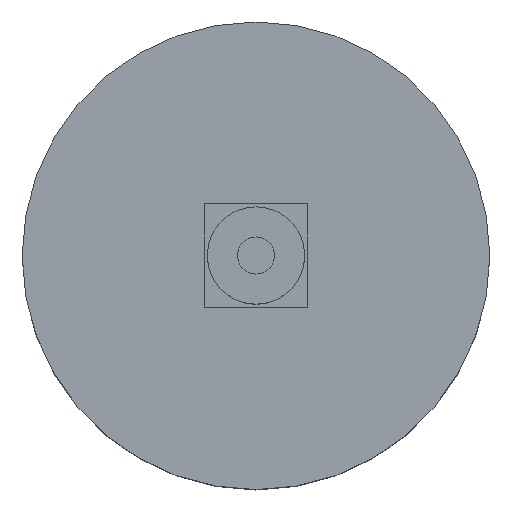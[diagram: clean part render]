
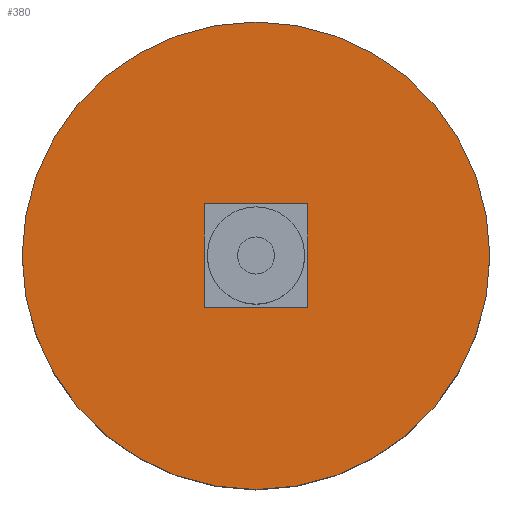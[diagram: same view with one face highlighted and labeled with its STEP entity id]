
A CAD part, top view. The second image highlights one B-rep face of the part: STEP entity #380.
In plain terms, the highlighted planar face has unit normal (0, 0, 1).
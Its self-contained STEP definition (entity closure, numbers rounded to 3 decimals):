
#12 = EDGE_CURVE ( 'NONE', #421, #18, #246, .T. ) ;
#18 = VERTEX_POINT ( 'NONE', #426 ) ;
#20 = DIRECTION ( 'NONE',  ( 1., 0., 0. ) ) ;
#22 = EDGE_CURVE ( 'NONE', #160, #137, #463, .T. ) ;
#26 = FACE_OUTER_BOUND ( 'NONE', #93, .T. ) ;
#31 = VECTOR ( 'NONE', #458, 1000. ) ;
#33 = ORIENTED_EDGE ( 'NONE', *, *, #60, .F. ) ;
#60 = EDGE_CURVE ( 'NONE', #286, #187, #420, .T. ) ;
#81 = ORIENTED_EDGE ( 'NONE', *, *, #391, .F. ) ;
#85 = CARTESIAN_POINT ( 'NONE',  ( -7., -7., 33.7 ) ) ;
#93 = EDGE_LOOP ( 'NONE', ( #113, #118 ) ) ;
#104 = DIRECTION ( 'NONE',  ( 1., 0., 0. ) ) ;
#113 = ORIENTED_EDGE ( 'NONE', *, *, #12, .T. ) ;
#118 = ORIENTED_EDGE ( 'NONE', *, *, #358, .T. ) ;
#136 = CARTESIAN_POINT ( 'NONE',  ( -31.5, 0., 33.7 ) ) ;
#137 = VERTEX_POINT ( 'NONE', #322 ) ;
#141 = VECTOR ( 'NONE', #363, 1000. ) ;
#160 = VERTEX_POINT ( 'NONE', #170 ) ;
#166 = CARTESIAN_POINT ( 'NONE',  ( 7., -7., 33.7 ) ) ;
#170 = CARTESIAN_POINT ( 'NONE',  ( 7., 7., 33.7 ) ) ;
#183 = CARTESIAN_POINT ( 'NONE',  ( -7., 7., 33.7 ) ) ;
#187 = VERTEX_POINT ( 'NONE', #166 ) ;
#209 = AXIS2_PLACEMENT_3D ( 'NONE', #408, #368, #104 ) ;
#212 = LINE ( 'NONE', #480, #141 ) ;
#225 = AXIS2_PLACEMENT_3D ( 'NONE', #254, #290, #20 ) ;
#231 = DIRECTION ( 'NONE',  ( 1., 0., 0. ) ) ;
#244 = ORIENTED_EDGE ( 'NONE', *, *, #362, .F. ) ;
#246 = CIRCLE ( 'NONE', #321, 31.5 ) ;
#247 = VECTOR ( 'NONE', #415, 1000. ) ;
#254 = CARTESIAN_POINT ( 'NONE',  ( 0., 0., 33.7 ) ) ;
#256 = LINE ( 'NONE', #183, #247 ) ;
#267 = DIRECTION ( 'NONE',  ( -1., 0., 0. ) ) ;
#272 = EDGE_LOOP ( 'NONE', ( #244, #33, #81, #289 ) ) ;
#282 = CARTESIAN_POINT ( 'NONE',  ( -7., -7., 33.7 ) ) ;
#286 = VERTEX_POINT ( 'NONE', #282 ) ;
#289 = ORIENTED_EDGE ( 'NONE', *, *, #22, .F. ) ;
#290 = DIRECTION ( 'NONE',  ( 0., 0., 1. ) ) ;
#293 = CIRCLE ( 'NONE', #225, 31.5 ) ;
#301 = DIRECTION ( 'NONE',  ( 0., 0., 1. ) ) ;
#315 = CARTESIAN_POINT ( 'NONE',  ( 0., 0., 33.7 ) ) ;
#321 = AXIS2_PLACEMENT_3D ( 'NONE', #315, #301, #231 ) ;
#322 = CARTESIAN_POINT ( 'NONE',  ( -7., 7., 33.7 ) ) ;
#353 = VECTOR ( 'NONE', #267, 1000. ) ;
#358 = EDGE_CURVE ( 'NONE', #18, #421, #293, .T. ) ;
#362 = EDGE_CURVE ( 'NONE', #187, #160, #212, .T. ) ;
#363 = DIRECTION ( 'NONE',  ( 0., 1., 0. ) ) ;
#368 = DIRECTION ( 'NONE',  ( 0., 0., 1. ) ) ;
#380 = ADVANCED_FACE ( 'NONE', ( #453, #26 ), #446, .T. ) ;
#391 = EDGE_CURVE ( 'NONE', #137, #286, #256, .T. ) ;
#408 = CARTESIAN_POINT ( 'NONE',  ( 0., 0., 33.7 ) ) ;
#415 = DIRECTION ( 'NONE',  ( 0., -1., 0. ) ) ;
#420 = LINE ( 'NONE', #85, #31 ) ;
#421 = VERTEX_POINT ( 'NONE', #136 ) ;
#423 = CARTESIAN_POINT ( 'NONE',  ( -7., 7., 33.7 ) ) ;
#426 = CARTESIAN_POINT ( 'NONE',  ( 31.5, 0., 33.7 ) ) ;
#446 = PLANE ( 'NONE',  #209 ) ;
#453 = FACE_BOUND ( 'NONE', #272, .T. ) ;
#458 = DIRECTION ( 'NONE',  ( 1., 0., 0. ) ) ;
#463 = LINE ( 'NONE', #423, #353 ) ;
#480 = CARTESIAN_POINT ( 'NONE',  ( 7., 7., 33.7 ) ) ;
